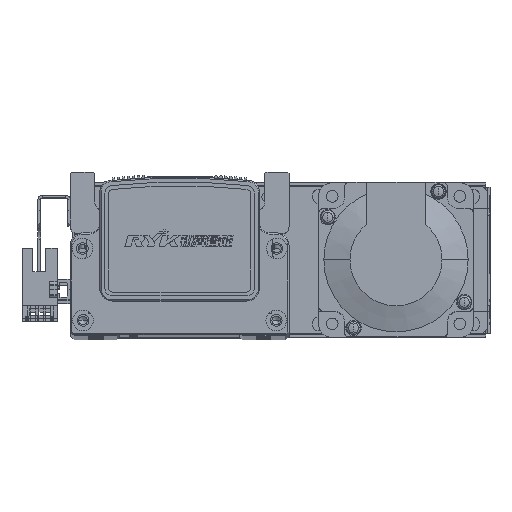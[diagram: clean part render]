
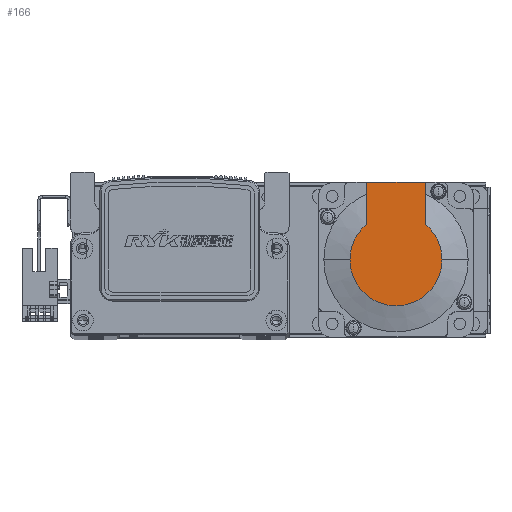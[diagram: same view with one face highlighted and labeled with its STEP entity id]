
A CAD part, top view. The second image highlights one B-rep face of the part: STEP entity #166.
In plain terms, the highlighted planar face has unit normal (0, 0, 1) as drawn and (-1, 0, 0) by its records, which use the part's own axes.
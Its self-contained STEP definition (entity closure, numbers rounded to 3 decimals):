
#166 = ADVANCED_FACE ( 'NONE', ( #54293 ), #37765, .T. ) ;
#1194 = VERTEX_POINT ( 'NONE', #38769 ) ;
#1208 = VERTEX_POINT ( 'NONE', #38774 ) ;
#1580 = VERTEX_POINT ( 'NONE', #38629 ) ;
#6205 = EDGE_CURVE ( 'NONE', #53793, #53879, #68148, .T. ) ;
#6242 = EDGE_CURVE ( 'NONE', #53879, #53810, #68207, .T. ) ;
#9842 = AXIS2_PLACEMENT_3D ( 'NONE', #29433, #29426, #29435 ) ;
#9862 = AXIS2_PLACEMENT_3D ( 'NONE', #29560, #29586, #29501 ) ;
#14590 = ORIENTED_EDGE ( 'NONE', *, *, #55153, .F. ) ;
#14607 = ORIENTED_EDGE ( 'NONE', *, *, #6205, .T. ) ;
#14641 = ORIENTED_EDGE ( 'NONE', *, *, #55224, .F. ) ;
#14689 = ORIENTED_EDGE ( 'NONE', *, *, #6242, .T. ) ;
#14703 = ORIENTED_EDGE ( 'NONE', *, *, #55131, .T. ) ;
#14734 = ORIENTED_EDGE ( 'NONE', *, *, #55181, .T. ) ;
#18400 = LINE ( 'NONE', #24696, #18499 ) ;
#18499 = VECTOR ( 'NONE', #24711, 1000. ) ;
#18625 = VECTOR ( 'NONE', #24829, 1000. ) ;
#18629 = LINE ( 'NONE', #24839, #18625 ) ;
#18723 = CIRCLE ( 'NONE', #27902, 17.881 ) ;
#18791 = LINE ( 'NONE', #25195, #18863 ) ;
#18863 = VECTOR ( 'NONE', #25162, 1000. ) ;
#24696 = CARTESIAN_POINT ( 'NONE',  ( -99., -8.941, -11.45 ) ) ;
#24711 = DIRECTION ( 'NONE',  ( 0., -1., 0. ) ) ;
#24829 = DIRECTION ( 'NONE',  ( 0., -1., 0. ) ) ;
#24839 = CARTESIAN_POINT ( 'NONE',  ( -99., 0., 11.45 ) ) ;
#24939 = CARTESIAN_POINT ( 'NONE',  ( -99., 0., 0. ) ) ;
#24941 = DIRECTION ( 'NONE',  ( 0., 0., -1. ) ) ;
#24959 = DIRECTION ( 'NONE',  ( -1., 0., 0. ) ) ;
#25162 = DIRECTION ( 'NONE',  ( 0., 0., 1. ) ) ;
#25195 = CARTESIAN_POINT ( 'NONE',  ( -99., 30., 25. ) ) ;
#27902 = AXIS2_PLACEMENT_3D ( 'NONE', #24939, #24959, #24941 ) ;
#29029 = CARTESIAN_POINT ( 'NONE',  ( -99., 0., -17.881 ) ) ;
#29041 = CARTESIAN_POINT ( 'NONE',  ( -99., 13.735, 11.45 ) ) ;
#29146 = CARTESIAN_POINT ( 'NONE',  ( -99., 0., 17.881 ) ) ;
#29426 = DIRECTION ( 'NONE',  ( -1., 0., 0. ) ) ;
#29433 = CARTESIAN_POINT ( 'NONE',  ( -99., 0., 0. ) ) ;
#29435 = DIRECTION ( 'NONE',  ( 0., 0., -1. ) ) ;
#29501 = DIRECTION ( 'NONE',  ( 0., 0., -1. ) ) ;
#29560 = CARTESIAN_POINT ( 'NONE',  ( -99., 0., 0. ) ) ;
#29586 = DIRECTION ( 'NONE',  ( -1., 0., 0. ) ) ;
#37765 = PLANE ( 'NONE',  #55816 ) ;
#37795 = DIRECTION ( 'NONE',  ( -1., 0., 0. ) ) ;
#37797 = CARTESIAN_POINT ( 'NONE',  ( -99., -8.941, 0. ) ) ;
#37800 = DIRECTION ( 'NONE',  ( 0., 0., 1. ) ) ;
#38629 = CARTESIAN_POINT ( 'NONE',  ( -99., 13.735, -11.45 ) ) ;
#38769 = CARTESIAN_POINT ( 'NONE',  ( -99., 30., 11.45 ) ) ;
#38774 = CARTESIAN_POINT ( 'NONE',  ( -99., 30., -11.45 ) ) ;
#53793 = VERTEX_POINT ( 'NONE', #29029 ) ;
#53810 = VERTEX_POINT ( 'NONE', #29041 ) ;
#53879 = VERTEX_POINT ( 'NONE', #29146 ) ;
#54293 = FACE_OUTER_BOUND ( 'NONE', #56899, .T. ) ;
#55131 = EDGE_CURVE ( 'NONE', #1208, #1580, #18400, .T. ) ;
#55153 = EDGE_CURVE ( 'NONE', #1194, #53810, #18629, .T. ) ;
#55181 = EDGE_CURVE ( 'NONE', #1580, #53793, #18723, .T. ) ;
#55224 = EDGE_CURVE ( 'NONE', #1208, #1194, #18791, .T. ) ;
#55816 = AXIS2_PLACEMENT_3D ( 'NONE', #37797, #37795, #37800 ) ;
#56899 = EDGE_LOOP ( 'NONE', ( #14703, #14734, #14607, #14689, #14590, #14641 ) ) ;
#68148 = CIRCLE ( 'NONE', #9842, 17.881 ) ;
#68207 = CIRCLE ( 'NONE', #9862, 17.881 ) ;
